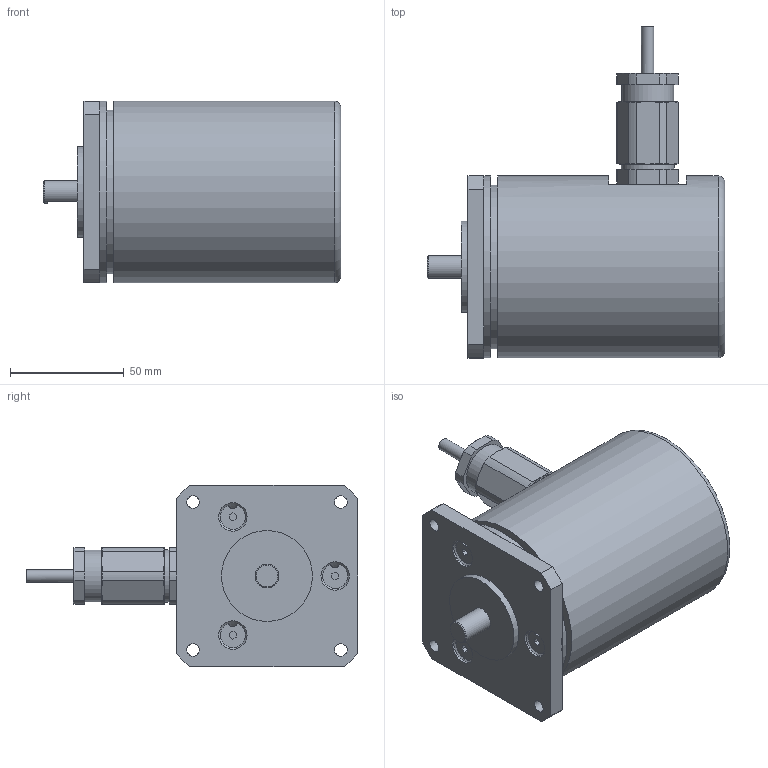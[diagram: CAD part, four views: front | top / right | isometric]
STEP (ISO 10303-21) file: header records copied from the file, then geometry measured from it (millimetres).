
FILE_DESCRIPTION(/* description */ ('Unknown'),/* implementation_level */ '2;1');
FILE_NAME(/* name */ 'EX80D',/* time_stamp */ '2021-01-15T11:12:37+01:00',/* author */ ('Unknown'),/* organization */ ('Unknown'),/* preprocessor_version */ 'ST-DEVELOPER v16.7',/* originating_system */ 'DEX',/* authorisation */ $);
FILE_SCHEMA (('AUTOMOTIVE_DESIGN {1 0 10303 214 3 1 1}'));
Length unit declared in the file: millimetre
Products named in the file (1): EX80D2
Bounding box: 131 x 145.94 x 80 mm (x, y, z)
Volume: 458054.5 mm3; surface area: 77364.9 mm2
Topology: 2 solids, 13 shells, 310 faces, 718 edges, 464 vertices
Faces by surface type: plane 131, cylinder 97, cone 69, torus 13
Full cylindrical faces by diameter (mm): 1 x1, 2.013 x3, 2.459 x3, 3.242 x6, 4.917 x3, 5 x1, 5.5 x5, 6 x3, 6.2 x3, 10 x2, 10.5 x1, 12.5 x3, 13 x1, 18 x1, 18.376 x1, 19.96 x1, 22.85 x1, 23 x1, 23.3 x1, 26 x1, 28.917 x1, 30.5 x1, 40 x3, 49 x1, 50 x1, 52 x2, 53 x1, 65.148 x1, 68 x1, 68.1 x1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
Entity records: 7735 total; most frequent: CARTESIAN_POINT 1400, DIRECTION 1368, ORIENTED_EDGE 1074, AXIS2_PLACEMENT_3D 572, EDGE_CURVE 537, FACE_BOUND 489, EDGE_LOOP 480, VERTEX_POINT 408
